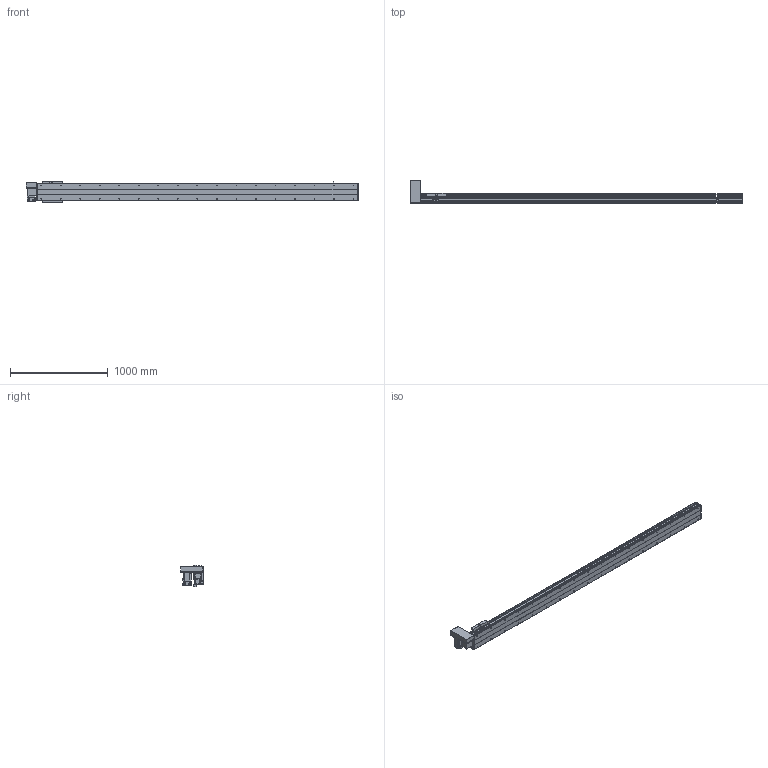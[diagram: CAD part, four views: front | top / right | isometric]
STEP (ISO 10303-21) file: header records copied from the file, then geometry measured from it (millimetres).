
FILE_DESCRIPTION(/* description */ ('STEP AP214'),/* implementation_level */ '2;1');
FILE_NAME(/* name */ 'PBS200-P40-S2900-RU-T75-C1-N(0)',/* time_stamp */ '2022-06-11T09:38:00+02:00',/* author */ ('License CC BY-ND 4.0'),/* organization */ ('CADENAS'),/* preprocessor_version */ 'ST-DEVELOPER v18.102',/* originating_system */ 'PARTsolutions',/* authorisation */ ' ');
FILE_SCHEMA (('AUTOMOTIVE_DESIGN {1 0 10303 214 3 1 1}'));
Length unit declared in the file: millimetre
Products named in the file (7): PBS200-P40-S2900-RU-T75-C1-N(0); PBS200_sensor; PBS200_plant; PBS200_sliser; T75-p1; PBS200T-RU_motors; PBS200-S2900()_body
Assembly tree (8 placements, depth 2):
  PBS200-P40-S2900-RU-T75-C1-N(0)
    PBS200_sensor  x3
    PBS200_plant
    PBS200_sliser
    T75-p1
    PBS200T-RU_motors
    PBS200-S2900()_body
Bounding box: 3400 x 231 x 221 mm (x, y, z)
Volume: 23102084 mm3; surface area: 3689933.9 mm2
Topology: 8 solids, 8 shells, 974 faces, 2464 edges, 1602 vertices
Faces by surface type: plane 592, cylinder 316, cone 66
Full cylindrical faces by diameter (mm): 2.459 x6, 3.242 x4, 4.5 x6, 4.917 x4, 5 x6, 6 x7, 6.6 x8, 6.647 x38, 8 x6, 10 x4, 12 x8, 38 x2, 40 x1, 70 x1
Entity records: 25661 total; most frequent: DIRECTION 4543, CARTESIAN_POINT 4354, ORIENTED_EDGE 4090, EDGE_CURVE 2045, AXIS2_PLACEMENT_3D 1615, VERTEX_POINT 1426, LINE 1313, VECTOR 1313
